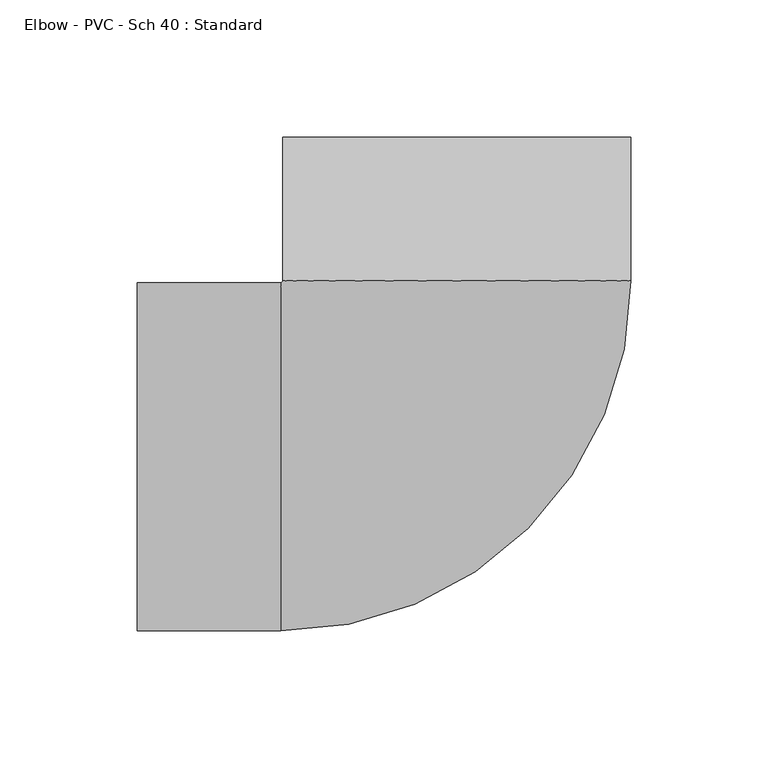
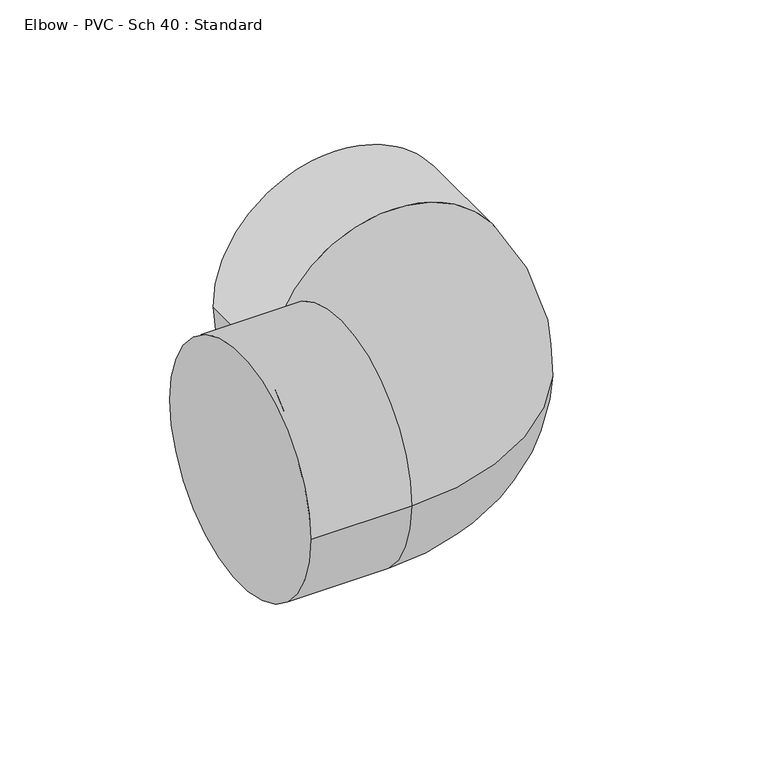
"""IFC4 building model written with IfcOpenShell, lengths in millimetres: pipe fitting geometry, Elbow - PVC - Sch 40 : Standard."""

from ifc_helpers import new_model, si_unit, point, frame, origin, place, context, project, spatial, circle_curve, ellipse_curve, trimmed, source, transform, mapped, element, save
from ifc_brep_helpers import plane_surface, cylinder_surface, revolved_surface, advanced_brep


def elbow_pvc_sch_40_standard_84c736bd(model_context):
    return source(origin(), model_context, "Body", "AdvancedBrep", [
        advanced_brep(
        [(-116.6869748, -63.5, 0.0), (-116.6869748, 63.5, 0.0), (-64.2867748, -63.5, 0.0), (-64.2867748, 63.5, 0.0), (-63.4930248, 64.2936639, 0.0), (63.5069744, 64.279885, 0.0), (63.5126596, 116.6800847, 0.0), (-63.4873397, 116.6938636, 0.0)],
        [
            (0, 1, circle_curve(frame((-116.6869748, 0.0, 0.0), z_axis=(-1.0, 0.0, 0.0), x_axis=(0.0, 1.0, 0.0)), 63.5)),
            (1, 0, circle_curve(frame((-116.6869748, 0.0, 0.0), z_axis=(-1.0, 0.0, 0.0), x_axis=(0.0, 1.0, 0.0)), 63.5)),
            (0, 2),
            (2, 3, circle_curve(frame((-64.2867748, 0.0, 0.0), z_axis=(-1.0, 0.0, 0.0), x_axis=(0.0, 1.0, 0.0)), 63.5)),
            (3, 1),
            (3, 2, circle_curve(frame((-64.2867748, 0.0, 0.0), z_axis=(-1.0, 0.0, 0.0), x_axis=(0.0, 1.0, 0.0)), 63.5)),
            (4, 3, circle_curve(frame((-64.2867748, 64.29375, 0.0), z_axis=(0.0, 0.0, -1.0), x_axis=(0.0, -1.0, 0.0)), 0.79375)),
            (2, 5, circle_curve(frame((-64.2867748, 64.29375, 0.0), z_axis=(0.0, 0.0, 1.0), x_axis=(0.0, -1.0, 0.0)), 127.79375)),
            (5, 4, circle_curve(frame((0.0069748, 64.2867744, 0.0), z_axis=(-0.00010849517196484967, -0.9999999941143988, 0.0), x_axis=(-0.9999999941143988, 0.00010849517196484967, 0.0)), 63.5)),
            (4, 5, circle_curve(frame((0.0069748, 64.2867744, 0.0), z_axis=(-0.00010849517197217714, -0.9999999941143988, 0.0), x_axis=(-0.9999999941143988, 0.00010849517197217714, 0.0)), 63.5)),
            (6, 7, circle_curve(frame((0.01266, 116.6869741, 0.0), z_axis=(0.00010849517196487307, 0.9999999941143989, 0.0), x_axis=(-0.9999999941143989, 0.00010849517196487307, 0.0)), 63.5)),
            (7, 6, circle_curve(frame((0.01266, 116.6869741, 0.0), z_axis=(0.00010849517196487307, 0.9999999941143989, 0.0), x_axis=(-0.9999999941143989, 0.00010849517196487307, 0.0)), 63.5)),
            (5, 6),
            (7, 4),
        ],
        [
            plane_surface(frame((-116.6869748, 0.0, 0.0), z_axis=(-1.0, 0.0, 0.0), x_axis=(0.0, 0.0, 1.0))),
            cylinder_surface(frame((-116.6869748, 0.0, 0.0), z_axis=(-1.0, 0.0, 0.0), x_axis=(0.0, 1.0, 0.0)), 63.5),
            revolved_surface(trimmed(ellipse_curve(frame((-64.2867748, 0.0, 0.0), z_axis=(-1.0, 0.0, 0.0), x_axis=(0.0, 1.0, 0.0)), 63.5, 63.5), [point((-64.2867748, -63.5, 0.0))], [point((-64.2867748, 63.5, 0.0))], True, "CARTESIAN"), (-64.2867748, 64.29375, 0.0), (0.0, 0.0, 1.0)),
            revolved_surface(trimmed(ellipse_curve(frame((-64.2867748, 0.0, 0.0), z_axis=(-1.0, 0.0, 0.0), x_axis=(0.0, 1.0, 0.0)), 63.5, 63.5), [point((-64.2867748, 63.5, 0.0))], [point((-64.2867748, -63.5, 0.0))], True, "CARTESIAN"), (-64.2867748, 64.29375, 0.0), (0.0, 0.0, 1.0)),
            plane_surface(frame((0.01266, 116.6869741, 0.0), z_axis=(0.00010849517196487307, 0.9999999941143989, 0.0), x_axis=(0.0, 0.0, 1.0))),
            cylinder_surface(frame((0.0069748, 64.2867744, 0.0), z_axis=(-0.00010849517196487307, -0.9999999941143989, 0.0), x_axis=(-0.9999999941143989, 0.00010849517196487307, 0.0)), 63.5),
        ],
        [
            (0, [[1, 2]]),
            (1, [[-1, 3, 4, 5]]),
            (1, [[-2, -5, 6, -3]]),
            (2, [[7, -4, 8, 9]]),
            (3, [[-8, -6, -7, 10]]),
            (4, [[11, 12]]),
            (5, [[-9, 13, -12, 14]]),
            (5, [[-10, -14, -11, -13]]),
        ],
    ),
    ])


if __name__ == "__main__":
    model = new_model("IFC4")
    model_context = context("Model", 3, world=origin())
    ifc_project = project(units=[si_unit("LENGTHUNIT", "METRE", prefix="MILLI")], contexts=[model_context])
    site = spatial("IfcSite", under=ifc_project)
    building = spatial("IfcBuilding", under=site)
    placement = place(None, origin())
    elbow_pvc_sch_40_standard_shape = elbow_pvc_sch_40_standard_84c736bd(model_context)
    element("IfcPipeFitting", 1, ObjectType="Elbow - PVC - Sch 40 : Standard", at=placement, inside=building, context=model_context, shape_type="MappedRepresentation", body=[
        mapped(elbow_pvc_sch_40_standard_shape, transform((0.0, 0.0, 0.0), x_axis=(1.0, 0.0, 0.0), y_axis=(0.0, 1.0, 0.0), z_axis=(0.0, 0.0, 1.0))),
    ])
    save(model, "model.ifc")
